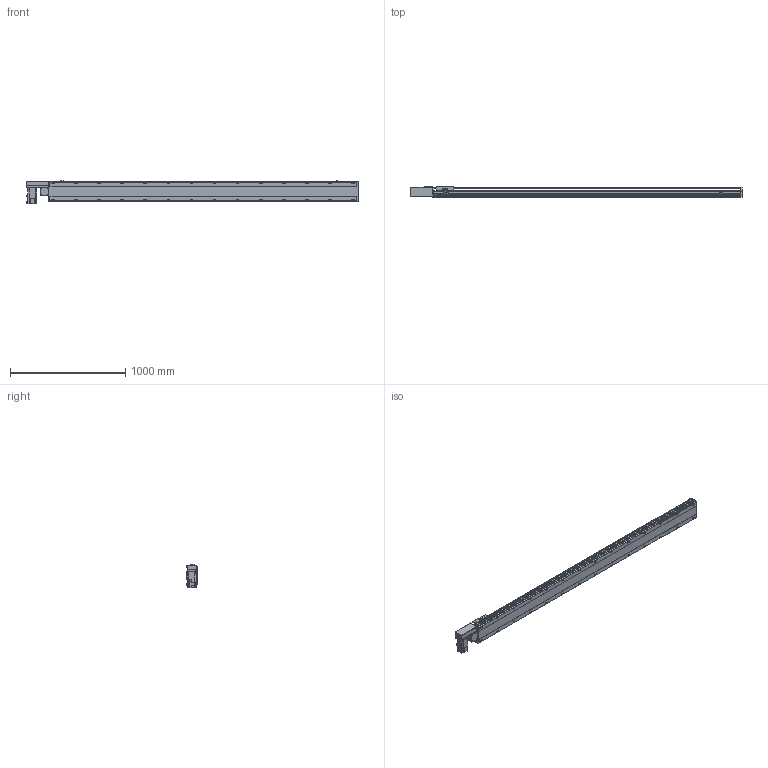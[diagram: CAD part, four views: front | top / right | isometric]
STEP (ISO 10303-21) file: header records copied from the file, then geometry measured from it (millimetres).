
FILE_DESCRIPTION( ( 'STEP AP214' ), '1' );
FILE_NAME( 'x:/temp/worker_4/temp/exporttempdir_2248_293_z4T8F/format_0/PBS170-P40-S2400-R-T75-C1-N(0).stp', '2022-06-07T07:32:16', ( 'License CC BY-ND 4.0' ), ( 'CADENAS' ), ' ', 'PARTsolutions', ' ' );
FILE_SCHEMA( ( 'AUTOMOTIVE_DESIGN { 1 0 10303 214 1 1 1 1 }' ) );
Length unit declared in the file: millimetre
Products named in the file (7): PBS170-P40-S2400-R-T75-C1-N(0); _PBS170-S2400()_body; _PBS170T-R_motors; _T75-p1; _PBS170_sliser; _PBS170_plant; _PBS170_sensor
Assembly tree (8 placements, depth 2):
  PBS170-P40-S2400-R-T75-C1-N(0)
    _PBS170-S2400()_body
    _PBS170T-R_motors
    _T75-p1
    _PBS170_sliser
    _PBS170_plant
    _PBS170_sensor  x3
Bounding box: 2878 x 97 x 205.3 mm (x, y, z)
Volume: 20968085.4 mm3; surface area: 2642827.2 mm2
Topology: 8 solids, 8 shells, 1178 faces, 3115 edges, 2030 vertices
Faces by surface type: plane 723, cylinder 387, cone 58, sphere 8, torus 2
Full cylindrical faces by diameter (mm): 3.242 x4, 4 x2, 4.4 x4, 4.5 x6, 4.917 x4, 6 x9, 6.647 x36, 7 x2, 7.5 x4, 8 x8, 8.5 x28, 10 x4, 10.5 x28, 11 x2, 30 x2, 40 x1, 70 x1
Entity records: 43592 total; most frequent: CARTESIAN_POINT 7229, DIRECTION 5720, ORIENTED_EDGE 5388, EDGE_CURVE 2694, AXIS2_PLACEMENT_3D 2017, VERTEX_POINT 1874, LINE 1686, VECTOR 1686
